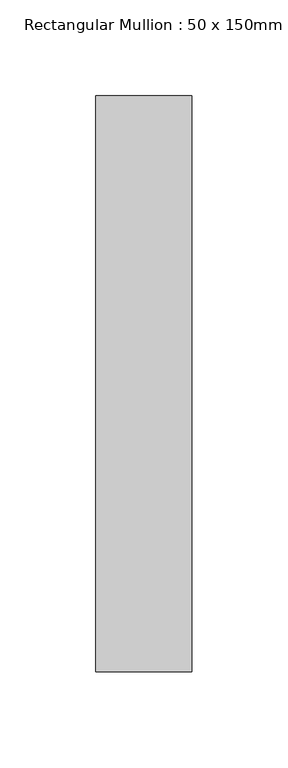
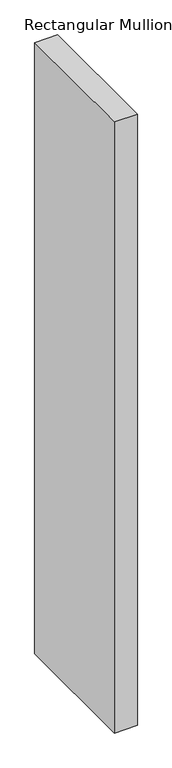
"""IFC4 building model written with IfcOpenShell, lengths in millimetres: member geometry, Rectangular Mullion : 50 x 150mm."""

from ifc_helpers import new_model, si_unit, frame, origin, place, context, project, spatial, polyline, outline, extrude, source, transform, mapped, element, save


def rectangular_mullion_50_x_150mm_ce27a029(model_context):
    return source(origin(), model_context, "Body", "SweptSolid", [
        extrude(outline(polyline([(0.0, 125.0), (0.0, -175.0), (-50.0, -175.0), (-50.0, 125.0), (0.0, 125.0)])), frame((0.0, 0.0, -1406.0), z_axis=(0.0, 0.0, 1.0), x_axis=(1.0, 0.0, 0.0)), (0.0, 0.0, 1.0), 1406.0),
    ])


if __name__ == "__main__":
    model = new_model("IFC4")
    model_context = context("Model", 3, world=origin())
    ifc_project = project(units=[si_unit("LENGTHUNIT", "METRE", prefix="MILLI")], contexts=[model_context])
    site = spatial("IfcSite", under=ifc_project)
    building = spatial("IfcBuilding", under=site)
    placement = place(None, origin())
    rectangular_mullion_50_x_150mm_shape = rectangular_mullion_50_x_150mm_ce27a029(model_context)
    element("IfcMember", 1, ObjectType="Rectangular Mullion : 50 x 150mm", at=placement, inside=building, context=model_context, shape_type="MappedRepresentation", body=[
        mapped(rectangular_mullion_50_x_150mm_shape, transform((0.0, 0.0, 0.0), x_axis=(1.0, 0.0, 0.0), y_axis=(0.0, 1.0, 0.0), z_axis=(0.0, 0.0, 1.0))),
    ])
    save(model, "model.ifc")
